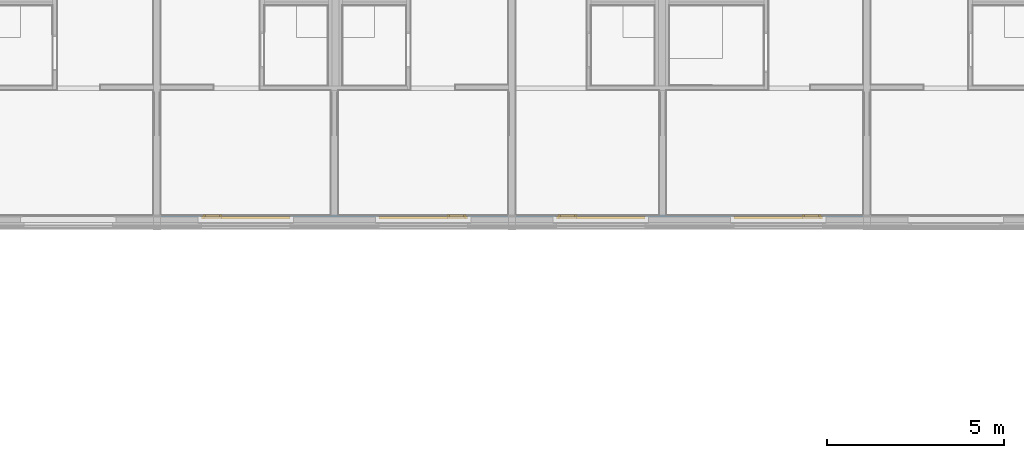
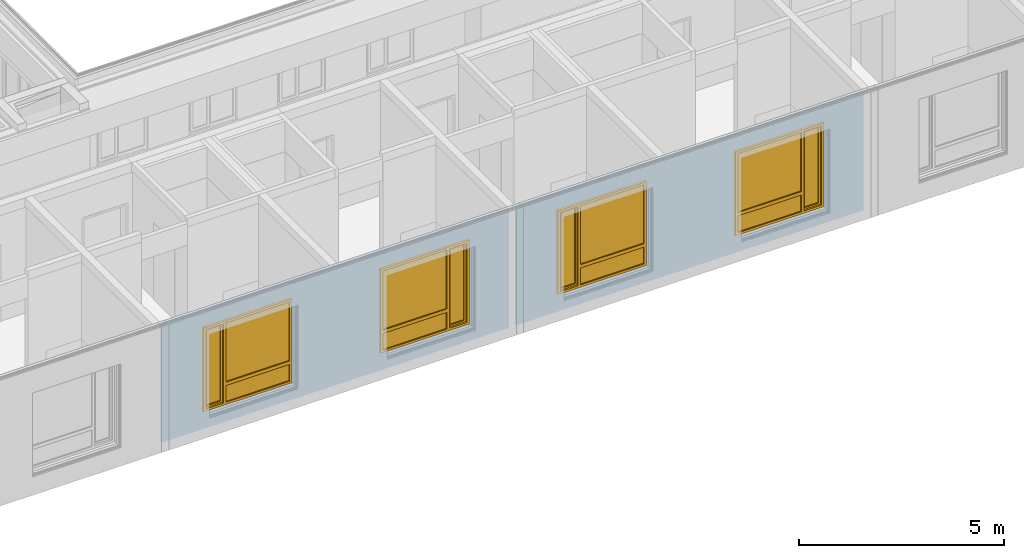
# One storey, part 116 of 222: 4 windows, 4 openings, plus 2 elements that do not belong to this part.
"""IFC4 building model written with IfcOpenShell, lengths in metres."""

import ifcopenshell
import ifcopenshell.guid

model = None  # the IFC model being written
_history = None  # IfcOwnerHistory: only IFC2X3 demands one
_inside = {}  # id of a spatial element -> (the spatial element, [elements in it])
_under = {}  # id of a project, library or spatial element -> (it, [spatial elements below it])
_declared = {}  # id of a project -> (the project, [libraries it declares])
_typed = {}  # id of a type object -> (the type object, [elements of that type])
_made_of = {}  # id of a material, layer set ... -> (it, [elements and type objects made of it])


def new_model(schema):
    """Start an empty IFC model of exactly this schema.

    Asked for "IFC4X3", IfcOpenShell would pick the latest addendum, in which some entities
    have other attributes; the version numbers below select the first issue.
    IFC2X3 requires an IfcOwnerHistory on every rooted entity: one is made here for all.
    """
    global model, _history
    if schema == "IFC4X3":
        model = ifcopenshell.file(schema_version=(4, 3, 0, 0))
    else:
        model = ifcopenshell.file(schema=schema)
    _inside.clear()
    _under.clear()
    _declared.clear()
    _typed.clear()
    _made_of.clear()
    _history = None
    if model.schema == "IFC2X3":
        org = make("IfcOrganization", Name="unknown")
        user = make(
            "IfcPersonAndOrganization",
            ThePerson=make("IfcPerson", FamilyName="unknown"),
            TheOrganization=org,
        )
        app = make(
            "IfcApplication",
            ApplicationDeveloper=org,
            Version="unknown",
            ApplicationFullName="unknown",
            ApplicationIdentifier="unknown",
        )
        _history = make(
            "IfcOwnerHistory",
            OwningUser=user,
            OwningApplication=app,
            ChangeAction="ADDED",
            CreationDate=0,
        )
    return model


def make(cls, **values):
    """One entity of the class cls with the attributes given. An attribute that is None is left unset."""
    return model.create_entity(
        cls, **{name: value for name, value in values.items() if value is not None}
    )


def entity(cls, *values):
    """Any entity or typed value of the class cls, its attributes in the order of the schema. None: left unset."""
    e = model.create_entity(cls)
    for i, value in enumerate(values):
        if value is not None:
            e[i] = value
    return e


def rooted(cls, **values):
    """An entity with a GlobalId (a new one), such as an element, a storey or a relation."""
    return make(cls, GlobalId=ifcopenshell.guid.new(), OwnerHistory=_history, **values)


def si_unit(unit_type, name, prefix=None):
    """IfcSIUnit, for example si_unit("LENGTHUNIT", "METRE", prefix="MILLI")."""
    return make("IfcSIUnit", UnitType=unit_type, Prefix=prefix, Name=name)


def converted_unit(unit_type, name, factor, base, dimensions=None, offset=None):
    """IfcConversionBasedUnit, such as the inch: factor (a typed value) times the base unit."""
    return make(
        "IfcConversionBasedUnit"
        if offset is None
        else "IfcConversionBasedUnitWithOffset",
        ConversionOffset=offset,
        Dimensions=None
        if dimensions is None
        else entity("IfcDimensionalExponents", *dimensions),
        UnitType=unit_type,
        Name=name,
        ConversionFactor=make(
            "IfcMeasureWithUnit", ValueComponent=factor, UnitComponent=base
        ),
    )


def derived_unit(unit_type, elements):
    """IfcDerivedUnit: a product of units, each with its exponent."""
    return make(
        "IfcDerivedUnit",
        Elements=[
            make("IfcDerivedUnitElement", Unit=unit, Exponent=power)
            for unit, power in elements
        ],
        UnitType=unit_type,
    )


def assignment(units):
    """IfcUnitAssignment: the units of a project."""
    return None if units is None else make("IfcUnitAssignment", Units=units)


def point(xyz):
    """IfcCartesianPoint."""
    return None if xyz is None else make("IfcCartesianPoint", Coordinates=xyz)


def direction(xyz):
    """IfcDirection."""
    return None if xyz is None else make("IfcDirection", DirectionRatios=xyz)


def frame(location, z_axis=None, x_axis=None):
    """IfcAxis2Placement3D, a coordinate frame: its origin and axes. An axis left out is left unset."""
    return make(
        "IfcAxis2Placement3D",
        Location=point(location),
        Axis=direction(z_axis),
        RefDirection=direction(x_axis),
    )


def frame_2d(location, x_axis=None):
    """IfcAxis2Placement2D, a coordinate frame in the plane: its origin and x axis."""
    return make(
        "IfcAxis2Placement2D", Location=point(location), RefDirection=direction(x_axis)
    )


def origin():
    """The frame at (0, 0, 0) with its axes left unset."""
    return frame((0.0, 0.0, 0.0))


def origin_with_axes():
    """The frame at (0, 0, 0) with the z axis (0, 0, 1) and the x axis (1, 0, 0) written out."""
    return frame((0.0, 0.0, 0.0), z_axis=(0.0, 0.0, 1.0), x_axis=(1.0, 0.0, 0.0))


def place(relative_to, where):
    """IfcLocalPlacement: puts the frame where relative to a parent placement (None: the world)."""
    return make(
        "IfcLocalPlacement", PlacementRelTo=relative_to, RelativePlacement=where
    )


def context(
    kind, dimensions, precision=None, world=None, true_north=None, identifier=None
):
    """IfcGeometricRepresentationContext, for example the 3D "Model" context."""
    return make(
        "IfcGeometricRepresentationContext",
        ContextIdentifier=identifier,
        ContextType=kind,
        CoordinateSpaceDimension=dimensions,
        Precision=precision,
        WorldCoordinateSystem=world,
        TrueNorth=true_north,
    )


def subcontext(parent, identifier, kind, view, scale=None):
    """IfcGeometricRepresentationSubContext, for example "Body" below "Model"."""
    return make(
        "IfcGeometricRepresentationSubContext",
        ContextIdentifier=identifier,
        ContextType=kind,
        ParentContext=parent,
        TargetScale=scale,
        TargetView=view,
    )


def project(units=None, contexts=None):
    """IfcProject with its units and contexts."""
    return rooted(
        "IfcProject",
        Name="project",
        RepresentationContexts=contexts,
        UnitsInContext=assignment(units),
    )


def spatial(cls, under=None, at=None, **own):
    """A site, building, storey or space (cls), placed at a placement, below another one or the project."""
    s = rooted(cls, ObjectPlacement=at, **own)
    if under is not None:
        _under.setdefault(under.id(), (under, []))[1].append(s)
    return s


def polyline(points):
    """IfcPolyline through the points."""
    return make("IfcPolyline", Points=[point(p) for p in points])


def profile(cls, at=None, kind="AREA", **sizes):
    """A parametric profile (cls). Its sizes go by their IFC names, for example OverallWidth=200.0."""
    return make(cls, ProfileType=kind, Position=at, **sizes)


def rectangle(**sizes):
    """IfcRectangleProfileDef."""
    return profile("IfcRectangleProfileDef", **sizes)


def outline(outer, holes=None, kind="AREA"):
    """IfcArbitraryClosedProfileDef: a profile drawn as a closed curve; with holes, ...WithVoids."""
    if holes is None:
        return make("IfcArbitraryClosedProfileDef", ProfileType=kind, OuterCurve=outer)
    return make(
        "IfcArbitraryProfileDefWithVoids",
        ProfileType=kind,
        OuterCurve=outer,
        InnerCurves=holes,
    )


def extrude(swept, where, along, depth):
    """IfcExtrudedAreaSolid: the profile swept, set in the frame where, extruded along a direction by depth."""
    return make(
        "IfcExtrudedAreaSolid",
        SweptArea=swept,
        Position=where,
        ExtrudedDirection=direction(along),
        Depth=depth,
    )


def faces_of(points, faces, orient=None, outer=None):
    """IfcFace entities. A face is a list of loops; a loop is a list of indices into points, from 0.

    orient and outer hold one flag for each loop. By default every Orientation is true, the
    first loop of a face is its IfcFaceOuterBound and the others are IfcFaceBound.
    """
    made = []
    for i, loops in enumerate(faces):
        bounds = []
        for j, loop in enumerate(loops):
            is_outer = j == 0 if outer is None else outer[i][j]
            bounds.append(
                make(
                    "IfcFaceOuterBound" if is_outer else "IfcFaceBound",
                    Bound=make("IfcPolyLoop", Polygon=[points[k] for k in loop]),
                    Orientation=True if orient is None else orient[i][j],
                )
            )
        made.append(make("IfcFace", Bounds=bounds))
    return made


def closed_shell(faces, orient=None, outer=None):
    """The faces of one IfcClosedShell. faceted_brep and surface_model build it on their shared points."""
    return ("IfcClosedShell", faces, orient, outer)


def open_shell(faces, orient=None, outer=None):
    """The faces of one IfcOpenShell. surface_model builds it on its shared points."""
    return ("IfcOpenShell", faces, orient, outer)


def surface_model(cls, points, shells):
    """IfcFaceBasedSurfaceModel or IfcShellBasedSurfaceModel (cls): surfaces that need not close."""
    shared = [point(p) for p in points]
    made = [make(c, CfsFaces=faces_of(shared, fs, o, b)) for c, fs, o, b in shells]
    if cls == "IfcFaceBasedSurfaceModel":
        return make(cls, FbsmFaces=made)
    return make(cls, SbsmBoundary=made)


def shape(context_of_items, identifier, shape_type, items):
    """IfcShapeRepresentation: the items that make up one representation, for example the "Body"."""
    return make(
        "IfcShapeRepresentation",
        ContextOfItems=context_of_items,
        RepresentationIdentifier=identifier,
        RepresentationType=shape_type,
        Items=items,
    )


def source(mapping_origin, context_of_items, identifier, shape_type, items):
    """IfcRepresentationMap: a shape defined once, which mapped items show again and again."""
    return make(
        "IfcRepresentationMap",
        MappingOrigin=mapping_origin,
        MappedRepresentation=shape(context_of_items, identifier, shape_type, items),
    )


def transform(
    local_origin,
    x_axis=None,
    y_axis=None,
    z_axis=None,
    scale=None,
    scale2=None,
    scale3=None,
    uniform=True,
):
    """IfcCartesianTransformationOperator3D, or its non-uniform kind. x_axis, y_axis, z_axis: its Axis1, 2, 3."""
    if uniform:
        return make(
            "IfcCartesianTransformationOperator3D",
            Axis1=direction(x_axis),
            Axis2=direction(y_axis),
            LocalOrigin=point(local_origin),
            Scale=scale,
            Axis3=direction(z_axis),
        )
    return make(
        "IfcCartesianTransformationOperator3DnonUniform",
        Axis1=direction(x_axis),
        Axis2=direction(y_axis),
        LocalOrigin=point(local_origin),
        Scale=scale,
        Axis3=direction(z_axis),
        Scale2=scale2,
        Scale3=scale3,
    )


def mapped(mapping_source, mapping_target):
    """IfcMappedItem: shows the shape of a source again, moved by a transform."""
    return make(
        "IfcMappedItem", MappingSource=mapping_source, MappingTarget=mapping_target
    )


def material(Name=None, Category=None):
    """IfcMaterial."""
    return make("IfcMaterial", Name=Name, Category=Category)


def made_of(thing, what):
    """Note that an element or type object is made of a material, layer set ...; save() writes the relation."""
    if what is not None:
        _made_of.setdefault(what.id(), (what, []))[1].append(thing)
    return thing


def element(
    cls,
    number,
    at=None,
    inside=None,
    cuts=None,
    type_object=None,
    material=None,
    context=None,
    identifier="Body",
    shape_type=None,
    held_by="IfcProductDefinitionShape",
    body=None,
    shapes=None,
    **own,
):
    """One element of the class cls, such as IfcWall. Its Tag is "e" and its number.

    at: its placement. inside: the storey or other place that contains it. cuts: it is an
    opening in that element (IfcRelVoidsElement). A single representation is given by context,
    identifier, shape_type and body (its items); several are given by shapes. held_by: the class
    of the entity that holds the representations. save() writes the other relations.
    """
    e = rooted(cls, Tag="e%d" % number, ObjectPlacement=at, **own)
    if body is not None:
        shapes = [shape(context, identifier, shape_type, body)]
    if shapes is not None:
        e.Representation = make(held_by, Representations=shapes)
    if inside is not None:
        _inside.setdefault(inside.id(), (inside, []))[1].append(e)
    if cuts is not None:
        rooted(
            "IfcRelVoidsElement", RelatingBuildingElement=cuts, RelatedOpeningElement=e
        )
    if type_object is not None:
        _typed.setdefault(type_object.id(), (type_object, []))[1].append(e)
    return made_of(e, material)


def fill(opening, filler):
    """IfcRelFillsElement: the door or window that sits in an opening."""
    return rooted(
        "IfcRelFillsElement",
        RelatingOpeningElement=opening,
        RelatedBuildingElement=filler,
    )


def aggregate(whole, parts):
    """IfcRelAggregates: a whole, such as a stair, and the parts it consists of."""
    return rooted("IfcRelAggregates", RelatingObject=whole, RelatedObjects=parts)


def save(model, path):
    """Write the relations noted so far, then the file.

    IfcRelAggregates (storeys below a building ...), IfcRelContainedInSpatialStructure (elements
    in a storey), IfcRelDefinesByType, IfcRelAssociatesMaterial and IfcRelDeclares: one each for
    every whole, place, type object, material and project.
    """
    for whole, parts in _under.values():
        aggregate(whole, parts)
    for where, things in _inside.values():
        rooted(
            "IfcRelContainedInSpatialStructure",
            RelatedElements=things,
            RelatingStructure=where,
        )
    for kind, things in _typed.values():
        rooted("IfcRelDefinesByType", RelatedObjects=things, RelatingType=kind)
    for what, things in _made_of.values():
        rooted("IfcRelAssociatesMaterial", RelatedObjects=things, RelatingMaterial=what)
    for by, libraries in _declared.values():
        rooted("IfcRelDeclares", RelatingContext=by, RelatedDefinitions=libraries)
    model.write(path)


model = new_model("IFC4")

# Units and contexts
model_context = context("Model", 3, precision=1e-05, world=origin())
body_context = subcontext(model_context, "Body", "Model", "MODEL_VIEW")
ifc_project = project(units=[si_unit("LENGTHUNIT", "METRE"), si_unit("AREAUNIT", "SQUARE_METRE"), si_unit("VOLUMEUNIT", "CUBIC_METRE"), si_unit("MASSUNIT", "GRAM", prefix="KILO"), converted_unit("PLANEANGLEUNIT", "DEGREE", entity("IfcPlaneAngleMeasure", 0.0174532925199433), si_unit("PLANEANGLEUNIT", "RADIAN"), dimensions=[0, 0, 0, 0, 0, 0, 0]), derived_unit("THERMALTRANSMITTANCEUNIT", [(si_unit("POWERUNIT", "WATT"), 1), (si_unit("THERMODYNAMICTEMPERATUREUNIT", "KELVIN"), -1), (si_unit("LENGTHUNIT", "METRE"), -2)]), derived_unit("VOLUMETRICFLOWRATEUNIT", [(si_unit("LENGTHUNIT", "METRE"), 3), (converted_unit("TIMEUNIT", "hour", entity("IfcTimeMeasure", 3600.0), si_unit("TIMEUNIT", "SECOND"), dimensions=[0, 0, 1, 0, 0, 0, 0]), -1), (si_unit("LENGTHUNIT", "METRE"), -1)])], contexts=[model_context])

# Site, building, storey
site_placement = place(None, origin())
site = spatial("IfcSite", under=ifc_project, at=site_placement, Name="Psychiatrie Neubau Wunstorf", CompositionType="ELEMENT")
building_placement = place(site_placement, origin())
building = spatial("IfcBuilding", under=site, at=building_placement, Name="Neubau H2 Stationsgebäude", CompositionType="ELEMENT")
storey_placement = place(building_placement, frame((0.0, 0.0, 3.6)))
storey = spatial("IfcBuildingStorey", under=building, at=storey_placement, Name="H2 Ebene +1", CompositionType="ELEMENT", Elevation=3.6)

# Wall, openings, windows
ifc_material_1 = material(Name="WA-LB")
wall_1_placement = place(storey_placement, frame((95.9, -1.16399999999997, 0.0), z_axis=(0.0, 0.0, 1.0), x_axis=(-1.0, 7.42444654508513e-16, 0.0)))
wall_1 = element("IfcWall", 1, at=wall_1_placement, inside=storey, material=ifc_material_1, context=body_context, shape_type="SweptSolid", body=[
    extrude(rectangle(XDim=9.8, YDim=0.036, at=frame_2d((4.9, 0.018), x_axis=(1.0, 0.0))), origin_with_axes(), (0.0, 0.0, 1.0), 3.55),
])
opening_1_placement = place(wall_1_placement, frame((1.14999995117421, 0.0, 0.55), z_axis=(0.0, 1.0, 0.0), x_axis=(0.0, 0.0, 1.0)))
opening_1 = element("IfcOpeningElement", 2, at=opening_1_placement, cuts=wall_1, Name="Fensteröffnung", ObjectType="Opening", context=body_context, shape_type="SweptSolid", body=[
    extrude(outline(polyline([(2.5, 2.5), (2.5, 0.0), (0.0, 0.0), (0.0, 2.5), (2.5, 2.5)])), origin_with_axes(), (0.0, 0.0, 1.0), 0.036),
])
opening_2_placement = place(wall_1_placement, frame((6.14999995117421, 0.0, 0.55), z_axis=(0.0, 1.0, 0.0), x_axis=(0.0, 0.0, 1.0)))
opening_2 = element("IfcOpeningElement", 3, at=opening_2_placement, cuts=wall_1, Name="Fensteröffnung", ObjectType="Opening", context=body_context, shape_type="SweptSolid", body=[
    extrude(outline(polyline([(2.5, 2.5), (2.5, 0.0), (0.0, 0.0), (0.0, 2.5), (2.5, 2.5)])), origin_with_axes(), (0.0, 0.0, 1.0), 0.036),
])
shared_shape_1 = source(origin_with_axes(), body_context, "Body", "SurfaceModel", [
    surface_model("IfcShellBasedSurfaceModel", [(0.0, 0.0, 2.5), (0.07, 0.0, 2.5), (0.07, 0.0, 0.0), (0.0, 0.0, 0.0), (0.0, 0.0699999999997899, 0.0), (0.07, 0.0699999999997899, 0.0), (0.07, 0.0699999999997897, 2.5), (0.0, 0.0699999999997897, 2.5)], [closed_shell([[[0, 1, 2, 3]], [[4, 5, 6, 7]], [[3, 4, 7, 0]], [[2, 5, 4, 3]], [[1, 6, 5, 2]], [[0, 7, 6, 1]]], orient=[[False], [False], [False], [False], [False], [False]])]),
    surface_model("IfcShellBasedSurfaceModel", [(2.43, 0.0, 2.5), (2.5, 0.0, 2.5), (2.5, 0.0, 0.0), (2.43, 0.0, 0.0), (2.43, 0.0699999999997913, 0.0), (2.5, 0.069999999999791, 0.0), (2.5, 0.0699999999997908, 2.5), (2.43, 0.0699999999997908, 2.5)], [closed_shell([[[0, 1, 2, 3]], [[4, 5, 6, 7]], [[3, 4, 7, 0]], [[2, 5, 4, 3]], [[1, 6, 5, 2]], [[0, 7, 6, 1]]], orient=[[False], [False], [False], [False], [False], [False]])]),
    surface_model("IfcShellBasedSurfaceModel", [(0.07, 0.0, 0.07), (2.43, 0.0, 0.07), (2.43, 0.0, 0.0), (0.07, 0.0, 0.0), (0.07, 0.0699999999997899, 0.0), (2.43, 0.0699999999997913, 0.0), (2.43, 0.069999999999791, 0.07), (0.07, 0.0699999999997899, 0.07)], [closed_shell([[[0, 1, 2, 3]], [[4, 5, 6, 7]], [[3, 4, 7, 0]], [[2, 5, 4, 3]], [[1, 6, 5, 2]], [[0, 7, 6, 1]]], orient=[[False], [False], [False], [False], [False], [False]])]),
    surface_model("IfcShellBasedSurfaceModel", [(0.07, 0.0, 2.5), (2.43, 0.0, 2.5), (2.43, 0.0, 2.43), (0.07, 0.0, 2.43), (0.07, 0.0699999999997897, 2.43), (2.43, 0.0699999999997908, 2.43), (2.43, 0.0699999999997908, 2.5), (0.07, 0.0699999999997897, 2.5)], [closed_shell([[[0, 1, 2, 3]], [[4, 5, 6, 7]], [[3, 4, 7, 0]], [[2, 5, 4, 3]], [[1, 6, 5, 2]], [[0, 7, 6, 1]]], orient=[[False], [False], [False], [False], [False], [False]])]),
    surface_model("IfcShellBasedSurfaceModel", [(0.565714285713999, 0.0, 2.43), (0.635714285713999, 0.0, 2.43), (0.635714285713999, 0.0, 0.07), (0.565714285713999, 0.0, 0.07), (0.565714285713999, 0.0699999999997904, 0.07), (0.635714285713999, 0.0699999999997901, 0.07), (0.635714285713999, 0.0699999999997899, 2.43), (0.565714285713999, 0.0699999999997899, 2.43)], [closed_shell([[[0, 1, 2, 3]], [[4, 5, 6, 7]], [[3, 4, 7, 0]], [[2, 5, 4, 3]], [[1, 6, 5, 2]], [[0, 7, 6, 1]]], orient=[[False], [False], [False], [False], [False], [False]])]),
    surface_model("IfcShellBasedSurfaceModel", [(0.05, -0.050000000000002, 2.45), (0.12, -0.050000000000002, 2.45), (0.12, -0.0500000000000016, 0.05), (0.05, -0.0500000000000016, 0.05), (0.05, 0.0199999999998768, 0.05), (0.12, 0.0199999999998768, 0.05), (0.12, 0.0199999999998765, 2.45), (0.05, 0.0199999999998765, 2.45)], [closed_shell([[[0, 1, 2, 3]], [[4, 5, 6, 7]], [[3, 4, 7, 0]], [[2, 5, 4, 3]], [[1, 6, 5, 2]], [[0, 7, 6, 1]]], orient=[[False], [False], [False], [False], [False], [False]])]),
    surface_model("IfcShellBasedSurfaceModel", [(0.515714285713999, -0.0500000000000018, 2.45), (0.585714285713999, -0.0500000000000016, 2.45), (0.585714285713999, -0.0500000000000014, 0.05), (0.515714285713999, -0.0500000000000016, 0.05), (0.515714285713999, 0.0199999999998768, 0.05), (0.585714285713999, 0.019999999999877, 0.05), (0.585714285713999, 0.0199999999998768, 2.45), (0.515714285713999, 0.0199999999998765, 2.45)], [closed_shell([[[0, 1, 2, 3]], [[4, 5, 6, 7]], [[3, 4, 7, 0]], [[2, 5, 4, 3]], [[1, 6, 5, 2]], [[0, 7, 6, 1]]], orient=[[False], [False], [False], [False], [False], [False]])]),
    surface_model("IfcShellBasedSurfaceModel", [(0.12, -0.0500000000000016, 0.12), (0.515714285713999, -0.0500000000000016, 0.12), (0.515714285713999, -0.0500000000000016, 0.05), (0.12, -0.0500000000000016, 0.05), (0.12, 0.0199999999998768, 0.05), (0.515714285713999, 0.0199999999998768, 0.05), (0.515714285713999, 0.0199999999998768, 0.12), (0.12, 0.0199999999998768, 0.12)], [closed_shell([[[0, 1, 2, 3]], [[4, 5, 6, 7]], [[3, 4, 7, 0]], [[2, 5, 4, 3]], [[1, 6, 5, 2]], [[0, 7, 6, 1]]], orient=[[False], [False], [False], [False], [False], [False]])]),
    surface_model("IfcShellBasedSurfaceModel", [(0.12, -0.050000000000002, 2.45), (0.515714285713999, -0.0500000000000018, 2.45), (0.515714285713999, -0.0500000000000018, 2.38), (0.12, -0.050000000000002, 2.38), (0.12, 0.0199999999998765, 2.38), (0.515714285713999, 0.0199999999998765, 2.38), (0.515714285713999, 0.0199999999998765, 2.45), (0.12, 0.0199999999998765, 2.45)], [closed_shell([[[0, 1, 2, 3]], [[4, 5, 6, 7]], [[3, 4, 7, 0]], [[2, 5, 4, 3]], [[1, 6, 5, 2]], [[0, 7, 6, 1]]], orient=[[False], [False], [False], [False], [False], [False]])]),
    surface_model("IfcShellBasedSurfaceModel", [(0.635714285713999, 0.0, 0.67), (2.43, 0.0, 0.67), (2.43, 0.0, 0.57), (0.635714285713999, 0.0, 0.57), (0.635714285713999, 0.0699999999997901, 0.57), (2.43, 0.069999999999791, 0.57), (2.43, 0.069999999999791, 0.67), (0.635714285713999, 0.0699999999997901, 0.67)], [closed_shell([[[0, 1, 2, 3]], [[4, 5, 6, 7]], [[3, 4, 7, 0]], [[2, 5, 4, 3]], [[1, 6, 5, 2]], [[0, 7, 6, 1]]], orient=[[False], [False], [False], [False], [False], [False]])]),
    surface_model("IfcShellBasedSurfaceModel", [(0.12, -0.0150000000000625, 0.12), (0.12, -0.0150000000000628, 2.38), (0.515714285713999, -0.0150000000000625, 2.38), (0.515714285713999, -0.0150000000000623, 0.12)], [open_shell([[[0, 1, 2, 3]]], orient=[[False]])]),
    surface_model("IfcShellBasedSurfaceModel", [(0.635714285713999, 0.0349999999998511, 0.07), (0.635714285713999, 0.0349999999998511, 0.57), (2.43, 0.034999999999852, 0.57), (2.43, 0.034999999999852, 0.07)], [open_shell([[[0, 1, 2, 3]]], orient=[[False]])]),
    surface_model("IfcShellBasedSurfaceModel", [(0.635714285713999, 0.0349999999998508, 0.67), (0.635714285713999, 0.0349999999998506, 2.43), (2.43, 0.0349999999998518, 2.43), (2.43, 0.034999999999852, 0.67)], [open_shell([[[0, 1, 2, 3]]], orient=[[False]])]),
])
window_1_placement = place(opening_1_placement, frame((0.0, 0.0, 0.03), z_axis=(1.0, 0.0, 0.0), x_axis=(0.0, 1.0, 1.48488930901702e-17)))
window_1 = element("IfcWindow", 4, at=window_1_placement, inside=storey, Name="Fenster", OverallHeight=2.5, OverallWidth=2.5, PartitioningType="USERDEFINED", PredefinedType="WINDOW", context=body_context, shape_type="MappedRepresentation", body=[
    mapped(shared_shape_1, transform((0.0, 0.0, 0.0), x_axis=(1.0, 0.0, 0.0), y_axis=(0.0, 1.0, 0.0), z_axis=(0.0, 0.0, 1.0), scale=1.0)),
])
fill(opening_1, window_1)
shared_shape_2 = source(origin_with_axes(), body_context, "Body", "SurfaceModel", [
    surface_model("IfcShellBasedSurfaceModel", [(2.5, 0.0, 2.5), (2.5, 0.0, 0.0), (2.43, 0.0, 0.0), (2.43, 0.0, 2.5), (2.5, 0.0699999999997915, 0.0), (2.5, 0.0699999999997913, 2.5), (2.43, 0.0699999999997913, 2.5), (2.43, 0.0699999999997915, 0.0)], [closed_shell([[[0, 1, 2, 3]], [[4, 5, 6, 7]], [[1, 0, 5, 4]], [[2, 1, 4, 7]], [[3, 2, 7, 6]], [[0, 3, 6, 5]]], orient=[[False], [False], [False], [False], [False], [False]])]),
    surface_model("IfcShellBasedSurfaceModel", [(0.07, 0.0, 2.5), (0.07, 0.0, 0.0), (0.0, 0.0, 0.0), (0.0, 0.0, 2.5), (0.07, 0.0699999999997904, 0.0), (0.07, 0.0699999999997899, 2.5), (0.0, 0.0699999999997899, 2.5), (0.0, 0.0699999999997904, 0.0)], [closed_shell([[[0, 1, 2, 3]], [[4, 5, 6, 7]], [[1, 0, 5, 4]], [[2, 1, 4, 7]], [[3, 2, 7, 6]], [[0, 3, 6, 5]]], orient=[[False], [False], [False], [False], [False], [False]])]),
    surface_model("IfcShellBasedSurfaceModel", [(2.43, 0.0, 0.07), (2.43, 0.0, 0.0), (0.07, 0.0, 0.0), (0.07, 0.0, 0.07), (2.43, 0.0699999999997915, 0.0), (2.43, 0.0699999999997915, 0.07), (0.07, 0.0699999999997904, 0.07), (0.07, 0.0699999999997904, 0.0)], [closed_shell([[[0, 1, 2, 3]], [[4, 5, 6, 7]], [[1, 0, 5, 4]], [[2, 1, 4, 7]], [[3, 2, 7, 6]], [[0, 3, 6, 5]]], orient=[[False], [False], [False], [False], [False], [False]])]),
    surface_model("IfcShellBasedSurfaceModel", [(2.43, 0.0, 2.5), (2.43, 0.0, 2.43), (0.07, 0.0, 2.43), (0.07, 0.0, 2.5), (2.43, 0.0699999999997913, 2.43), (2.43, 0.0699999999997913, 2.5), (0.07, 0.0699999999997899, 2.5), (0.07, 0.0699999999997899, 2.43)], [closed_shell([[[0, 1, 2, 3]], [[4, 5, 6, 7]], [[1, 0, 5, 4]], [[2, 1, 4, 7]], [[3, 2, 7, 6]], [[0, 3, 6, 5]]], orient=[[False], [False], [False], [False], [False], [False]])]),
    surface_model("IfcShellBasedSurfaceModel", [(1.934285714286, 0.0, 2.43), (1.934285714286, 0.0, 0.07), (1.864285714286, 0.0, 0.07), (1.864285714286, 0.0, 2.43), (1.934285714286, 0.0699999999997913, 0.07), (1.934285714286, 0.0699999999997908, 2.43), (1.864285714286, 0.069999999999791, 2.43), (1.864285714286, 0.0699999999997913, 0.07)], [closed_shell([[[0, 1, 2, 3]], [[4, 5, 6, 7]], [[1, 0, 5, 4]], [[2, 1, 4, 7]], [[3, 2, 7, 6]], [[0, 3, 6, 5]]], orient=[[False], [False], [False], [False], [False], [False]])]),
    surface_model("IfcShellBasedSurfaceModel", [(2.45, -0.0500000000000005, 2.45), (2.45, -0.05, 0.05), (2.38, -0.0500000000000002, 0.05), (2.38, -0.0500000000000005, 2.45), (2.45, 0.0199999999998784, 0.05), (2.45, 0.0199999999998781, 2.45), (2.38, 0.0199999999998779, 2.45), (2.38, 0.0199999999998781, 0.05)], [closed_shell([[[0, 1, 2, 3]], [[4, 5, 6, 7]], [[1, 0, 5, 4]], [[2, 1, 4, 7]], [[3, 2, 7, 6]], [[0, 3, 6, 5]]], orient=[[False], [False], [False], [False], [False], [False]])]),
    surface_model("IfcShellBasedSurfaceModel", [(1.984285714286, -0.0500000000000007, 2.45), (1.984285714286, -0.0500000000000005, 0.05), (1.914285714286, -0.0500000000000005, 0.05), (1.914285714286, -0.0500000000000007, 2.45), (1.984285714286, 0.0199999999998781, 0.05), (1.984285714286, 0.0199999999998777, 2.45), (1.914285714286, 0.0199999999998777, 2.45), (1.914285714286, 0.0199999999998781, 0.05)], [closed_shell([[[0, 1, 2, 3]], [[4, 5, 6, 7]], [[1, 0, 5, 4]], [[2, 1, 4, 7]], [[3, 2, 7, 6]], [[0, 3, 6, 5]]], orient=[[False], [False], [False], [False], [False], [False]])]),
    surface_model("IfcShellBasedSurfaceModel", [(2.38, -0.0500000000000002, 0.12), (2.38, -0.0500000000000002, 0.05), (1.984285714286, -0.0500000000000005, 0.05), (1.984285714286, -0.0500000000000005, 0.12), (2.38, 0.0199999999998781, 0.05), (2.38, 0.0199999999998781, 0.12), (1.984285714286, 0.0199999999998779, 0.12), (1.984285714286, 0.0199999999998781, 0.05)], [closed_shell([[[0, 1, 2, 3]], [[4, 5, 6, 7]], [[1, 0, 5, 4]], [[2, 1, 4, 7]], [[3, 2, 7, 6]], [[0, 3, 6, 5]]], orient=[[False], [False], [False], [False], [False], [False]])]),
    surface_model("IfcShellBasedSurfaceModel", [(2.38, -0.0500000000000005, 2.45), (2.38, -0.0500000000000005, 2.38), (1.984285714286, -0.0500000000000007, 2.38), (1.984285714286, -0.0500000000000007, 2.45), (2.38, 0.0199999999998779, 2.38), (2.38, 0.0199999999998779, 2.45), (1.984285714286, 0.0199999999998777, 2.45), (1.984285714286, 0.0199999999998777, 2.38)], [closed_shell([[[0, 1, 2, 3]], [[4, 5, 6, 7]], [[1, 0, 5, 4]], [[2, 1, 4, 7]], [[3, 2, 7, 6]], [[0, 3, 6, 5]]], orient=[[False], [False], [False], [False], [False], [False]])]),
    surface_model("IfcShellBasedSurfaceModel", [(1.864285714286, 0.0, 0.67), (1.864285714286, 0.0, 0.57), (0.07, 0.0, 0.57), (0.07, 0.0, 0.67), (1.864285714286, 0.0699999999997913, 0.57), (1.864285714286, 0.069999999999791, 0.67), (0.07, 0.0699999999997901, 0.67), (0.07, 0.0699999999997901, 0.57)], [closed_shell([[[0, 1, 2, 3]], [[4, 5, 6, 7]], [[1, 0, 5, 4]], [[2, 1, 4, 7]], [[3, 2, 7, 6]], [[0, 3, 6, 5]]], orient=[[False], [False], [False], [False], [False], [False]])]),
    surface_model("IfcShellBasedSurfaceModel", [(2.38, -0.0150000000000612, 0.12), (1.984285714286, -0.0150000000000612, 0.12), (1.984285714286, -0.0150000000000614, 2.38), (2.38, -0.0150000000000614, 2.38)], [open_shell([[[0, 1, 2, 3]]], orient=[[False]])]),
    surface_model("IfcShellBasedSurfaceModel", [(1.864285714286, 0.034999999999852, 0.07), (0.07, 0.0349999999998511, 0.07), (0.07, 0.0349999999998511, 0.57), (1.864285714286, 0.034999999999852, 0.57)], [open_shell([[[0, 1, 2, 3]]], orient=[[False]])]),
    surface_model("IfcShellBasedSurfaceModel", [(1.864285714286, 0.034999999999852, 0.67), (0.07, 0.0349999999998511, 0.67), (0.07, 0.0349999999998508, 2.43), (1.864285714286, 0.0349999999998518, 2.43)], [open_shell([[[0, 1, 2, 3]]], orient=[[False]])]),
])
window_2_placement = place(opening_2_placement, frame((0.0, 0.0, 0.03), z_axis=(1.0, 0.0, 0.0), x_axis=(0.0, 1.0, 1.48488930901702e-17)))
window_2 = element("IfcWindow", 5, at=window_2_placement, inside=storey, Name="Fenster", OverallHeight=2.5, OverallWidth=2.5, PartitioningType="USERDEFINED", PredefinedType="WINDOW", context=body_context, shape_type="MappedRepresentation", body=[
    mapped(shared_shape_2, transform((0.0, 0.0, 0.0), x_axis=(1.0, 0.0, 0.0), y_axis=(0.0, 1.0, 0.0), z_axis=(0.0, 0.0, 1.0), scale=1.0)),
])
fill(opening_2, window_2)

ifc_material_2 = material(Name="WA-LB")
wall_2_placement = place(storey_placement, frame((85.9, -1.16399999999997, 0.0), z_axis=(0.0, 0.0, 1.0), x_axis=(-1.0, 7.42444654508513e-16, 0.0)))
wall_2 = element("IfcWall", 6, at=wall_2_placement, inside=storey, material=ifc_material_2, context=body_context, shape_type="SweptSolid", body=[
    extrude(rectangle(XDim=9.8, YDim=0.036, at=frame_2d((4.9, 0.018), x_axis=(1.0, 0.0))), origin_with_axes(), (0.0, 0.0, 1.0), 3.55),
])
opening_3_placement = place(wall_2_placement, frame((1.14999995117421, 0.0, 0.55), z_axis=(0.0, 1.0, 0.0), x_axis=(0.0, 0.0, 1.0)))
opening_3 = element("IfcOpeningElement", 7, at=opening_3_placement, cuts=wall_2, Name="Fensteröffnung", ObjectType="Opening", context=body_context, shape_type="SweptSolid", body=[
    extrude(outline(polyline([(2.5, 2.5), (2.5, 0.0), (0.0, 0.0), (0.0, 2.5), (2.5, 2.5)])), origin_with_axes(), (0.0, 0.0, 1.0), 0.036),
])
opening_4_placement = place(wall_2_placement, frame((6.14999995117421, 0.0, 0.55), z_axis=(0.0, 1.0, 0.0), x_axis=(0.0, 0.0, 1.0)))
opening_4 = element("IfcOpeningElement", 8, at=opening_4_placement, cuts=wall_2, Name="Fensteröffnung", ObjectType="Opening", context=body_context, shape_type="SweptSolid", body=[
    extrude(outline(polyline([(2.5, 2.5), (2.5, 0.0), (0.0, 0.0), (0.0, 2.5), (2.5, 2.5)])), origin_with_axes(), (0.0, 0.0, 1.0), 0.036),
])
shared_shape_3 = source(origin_with_axes(), body_context, "Body", "SurfaceModel", [
    surface_model("IfcShellBasedSurfaceModel", [(0.0, 0.0, 2.5), (0.07, 0.0, 2.5), (0.07, 0.0, 0.0), (0.0, 0.0, 0.0), (0.0, 0.0699999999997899, 0.0), (0.07, 0.0699999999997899, 0.0), (0.07, 0.0699999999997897, 2.5), (0.0, 0.0699999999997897, 2.5)], [closed_shell([[[0, 1, 2, 3]], [[4, 5, 6, 7]], [[3, 4, 7, 0]], [[2, 5, 4, 3]], [[1, 6, 5, 2]], [[0, 7, 6, 1]]], orient=[[False], [False], [False], [False], [False], [False]])]),
    surface_model("IfcShellBasedSurfaceModel", [(2.43, 0.0, 2.5), (2.5, 0.0, 2.5), (2.5, 0.0, 0.0), (2.43, 0.0, 0.0), (2.43, 0.0699999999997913, 0.0), (2.5, 0.069999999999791, 0.0), (2.5, 0.0699999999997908, 2.5), (2.43, 0.0699999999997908, 2.5)], [closed_shell([[[0, 1, 2, 3]], [[4, 5, 6, 7]], [[3, 4, 7, 0]], [[2, 5, 4, 3]], [[1, 6, 5, 2]], [[0, 7, 6, 1]]], orient=[[False], [False], [False], [False], [False], [False]])]),
    surface_model("IfcShellBasedSurfaceModel", [(0.07, 0.0, 0.07), (2.43, 0.0, 0.07), (2.43, 0.0, 0.0), (0.07, 0.0, 0.0), (0.07, 0.0699999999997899, 0.0), (2.43, 0.0699999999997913, 0.0), (2.43, 0.0699999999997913, 0.07), (0.07, 0.0699999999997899, 0.07)], [closed_shell([[[0, 1, 2, 3]], [[4, 5, 6, 7]], [[3, 4, 7, 0]], [[2, 5, 4, 3]], [[1, 6, 5, 2]], [[0, 7, 6, 1]]], orient=[[False], [False], [False], [False], [False], [False]])]),
    surface_model("IfcShellBasedSurfaceModel", [(0.07, 0.0, 2.5), (2.43, 0.0, 2.5), (2.43, 0.0, 2.43), (0.07, 0.0, 2.43), (0.07, 0.0699999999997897, 2.43), (2.43, 0.0699999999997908, 2.43), (2.43, 0.0699999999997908, 2.5), (0.07, 0.0699999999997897, 2.5)], [closed_shell([[[0, 1, 2, 3]], [[4, 5, 6, 7]], [[3, 4, 7, 0]], [[2, 5, 4, 3]], [[1, 6, 5, 2]], [[0, 7, 6, 1]]], orient=[[False], [False], [False], [False], [False], [False]])]),
    surface_model("IfcShellBasedSurfaceModel", [(0.565714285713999, 0.0, 2.43), (0.635714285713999, 0.0, 2.43), (0.635714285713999, 0.0, 0.07), (0.565714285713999, 0.0, 0.07), (0.565714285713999, 0.0699999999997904, 0.07), (0.635714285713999, 0.0699999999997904, 0.07), (0.635714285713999, 0.0699999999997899, 2.43), (0.565714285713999, 0.0699999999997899, 2.43)], [closed_shell([[[0, 1, 2, 3]], [[4, 5, 6, 7]], [[3, 4, 7, 0]], [[2, 5, 4, 3]], [[1, 6, 5, 2]], [[0, 7, 6, 1]]], orient=[[False], [False], [False], [False], [False], [False]])]),
    surface_model("IfcShellBasedSurfaceModel", [(0.05, -0.0500000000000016, 2.45), (0.12, -0.0500000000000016, 2.45), (0.12, -0.0500000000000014, 0.05), (0.05, -0.0500000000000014, 0.05), (0.05, 0.019999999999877, 0.05), (0.12, 0.019999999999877, 0.05), (0.12, 0.0199999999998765, 2.45), (0.05, 0.0199999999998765, 2.45)], [closed_shell([[[0, 1, 2, 3]], [[4, 5, 6, 7]], [[3, 4, 7, 0]], [[2, 5, 4, 3]], [[1, 6, 5, 2]], [[0, 7, 6, 1]]], orient=[[False], [False], [False], [False], [False], [False]])]),
    surface_model("IfcShellBasedSurfaceModel", [(0.515714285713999, -0.0500000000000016, 2.45), (0.585714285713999, -0.0500000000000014, 2.45), (0.585714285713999, -0.0500000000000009, 0.05), (0.515714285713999, -0.0500000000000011, 0.05), (0.515714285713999, 0.019999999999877, 0.05), (0.585714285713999, 0.0199999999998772, 0.05), (0.585714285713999, 0.019999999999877, 2.45), (0.515714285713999, 0.0199999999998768, 2.45)], [closed_shell([[[0, 1, 2, 3]], [[4, 5, 6, 7]], [[3, 4, 7, 0]], [[2, 5, 4, 3]], [[1, 6, 5, 2]], [[0, 7, 6, 1]]], orient=[[False], [False], [False], [False], [False], [False]])]),
    surface_model("IfcShellBasedSurfaceModel", [(0.12, -0.0500000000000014, 0.12), (0.515714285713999, -0.0500000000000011, 0.12), (0.515714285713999, -0.0500000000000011, 0.05), (0.12, -0.0500000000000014, 0.05), (0.12, 0.019999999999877, 0.05), (0.515714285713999, 0.019999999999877, 0.05), (0.515714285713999, 0.019999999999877, 0.12), (0.12, 0.019999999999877, 0.12)], [closed_shell([[[0, 1, 2, 3]], [[4, 5, 6, 7]], [[3, 4, 7, 0]], [[2, 5, 4, 3]], [[1, 6, 5, 2]], [[0, 7, 6, 1]]], orient=[[False], [False], [False], [False], [False], [False]])]),
    surface_model("IfcShellBasedSurfaceModel", [(0.12, -0.0500000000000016, 2.45), (0.515714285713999, -0.0500000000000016, 2.45), (0.515714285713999, -0.0500000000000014, 2.38), (0.12, -0.0500000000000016, 2.38), (0.12, 0.0199999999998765, 2.38), (0.515714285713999, 0.0199999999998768, 2.38), (0.515714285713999, 0.0199999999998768, 2.45), (0.12, 0.0199999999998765, 2.45)], [closed_shell([[[0, 1, 2, 3]], [[4, 5, 6, 7]], [[3, 4, 7, 0]], [[2, 5, 4, 3]], [[1, 6, 5, 2]], [[0, 7, 6, 1]]], orient=[[False], [False], [False], [False], [False], [False]])]),
    surface_model("IfcShellBasedSurfaceModel", [(0.635714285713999, 0.0, 0.67), (2.43, 0.0, 0.67), (2.43, 0.0, 0.57), (0.635714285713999, 0.0, 0.57), (0.635714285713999, 0.0699999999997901, 0.57), (2.43, 0.069999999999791, 0.57), (2.43, 0.069999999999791, 0.67), (0.635714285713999, 0.0699999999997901, 0.67)], [closed_shell([[[0, 1, 2, 3]], [[4, 5, 6, 7]], [[3, 4, 7, 0]], [[2, 5, 4, 3]], [[1, 6, 5, 2]], [[0, 7, 6, 1]]], orient=[[False], [False], [False], [False], [False], [False]])]),
    surface_model("IfcShellBasedSurfaceModel", [(0.12, -0.0150000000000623, 0.12), (0.12, -0.0150000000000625, 2.38), (0.515714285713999, -0.0150000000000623, 2.38), (0.515714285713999, -0.0150000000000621, 0.12)], [open_shell([[[0, 1, 2, 3]]], orient=[[False]])]),
    surface_model("IfcShellBasedSurfaceModel", [(0.635714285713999, 0.0349999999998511, 0.07), (0.635714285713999, 0.0349999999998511, 0.57), (2.43, 0.034999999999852, 0.57), (2.43, 0.034999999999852, 0.07)], [open_shell([[[0, 1, 2, 3]]], orient=[[False]])]),
    surface_model("IfcShellBasedSurfaceModel", [(0.635714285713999, 0.0349999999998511, 0.67), (0.635714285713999, 0.0349999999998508, 2.43), (2.43, 0.0349999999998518, 2.43), (2.43, 0.034999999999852, 0.67)], [open_shell([[[0, 1, 2, 3]]], orient=[[False]])]),
])
window_3_placement = place(opening_3_placement, frame((0.0, 0.0, 0.03), z_axis=(1.0, 0.0, 0.0), x_axis=(0.0, 1.0, 1.48488930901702e-17)))
window_3 = element("IfcWindow", 9, at=window_3_placement, inside=storey, Name="Fenster", OverallHeight=2.5, OverallWidth=2.5, PartitioningType="USERDEFINED", PredefinedType="WINDOW", context=body_context, shape_type="MappedRepresentation", body=[
    mapped(shared_shape_3, transform((0.0, 0.0, 0.0), x_axis=(1.0, 0.0, 0.0), y_axis=(0.0, 1.0, 0.0), z_axis=(0.0, 0.0, 1.0), scale=1.0)),
])
fill(opening_3, window_3)
shared_shape_4 = source(origin_with_axes(), body_context, "Body", "SurfaceModel", [
    surface_model("IfcShellBasedSurfaceModel", [(2.5, 0.0, 2.5), (2.5, 0.0, 0.0), (2.43, 0.0, 0.0), (2.43, 0.0, 2.5), (2.5, 0.0699999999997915, 0.0), (2.5, 0.0699999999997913, 2.5), (2.43, 0.0699999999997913, 2.5), (2.43, 0.0699999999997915, 0.0)], [closed_shell([[[0, 1, 2, 3]], [[4, 5, 6, 7]], [[1, 0, 5, 4]], [[2, 1, 4, 7]], [[3, 2, 7, 6]], [[0, 3, 6, 5]]], orient=[[False], [False], [False], [False], [False], [False]])]),
    surface_model("IfcShellBasedSurfaceModel", [(0.07, 0.0, 2.5), (0.07, 0.0, 0.0), (0.0, 0.0, 0.0), (0.0, 0.0, 2.5), (0.07, 0.0699999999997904, 0.0), (0.07, 0.0699999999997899, 2.5), (0.0, 0.0699999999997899, 2.5), (0.0, 0.0699999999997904, 0.0)], [closed_shell([[[0, 1, 2, 3]], [[4, 5, 6, 7]], [[1, 0, 5, 4]], [[2, 1, 4, 7]], [[3, 2, 7, 6]], [[0, 3, 6, 5]]], orient=[[False], [False], [False], [False], [False], [False]])]),
    surface_model("IfcShellBasedSurfaceModel", [(2.43, 0.0, 0.07), (2.43, 0.0, 0.0), (0.07, 0.0, 0.0), (0.07, 0.0, 0.07), (2.43, 0.0699999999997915, 0.0), (2.43, 0.0699999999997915, 0.07), (0.07, 0.0699999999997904, 0.07), (0.07, 0.0699999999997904, 0.0)], [closed_shell([[[0, 1, 2, 3]], [[4, 5, 6, 7]], [[1, 0, 5, 4]], [[2, 1, 4, 7]], [[3, 2, 7, 6]], [[0, 3, 6, 5]]], orient=[[False], [False], [False], [False], [False], [False]])]),
    surface_model("IfcShellBasedSurfaceModel", [(2.43, 0.0, 2.5), (2.43, 0.0, 2.43), (0.07, 0.0, 2.43), (0.07, 0.0, 2.5), (2.43, 0.0699999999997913, 2.43), (2.43, 0.0699999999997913, 2.5), (0.07, 0.0699999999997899, 2.5), (0.07, 0.0699999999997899, 2.43)], [closed_shell([[[0, 1, 2, 3]], [[4, 5, 6, 7]], [[1, 0, 5, 4]], [[2, 1, 4, 7]], [[3, 2, 7, 6]], [[0, 3, 6, 5]]], orient=[[False], [False], [False], [False], [False], [False]])]),
    surface_model("IfcShellBasedSurfaceModel", [(1.934285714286, 0.0, 2.43), (1.934285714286, 0.0, 0.07), (1.864285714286, 0.0, 0.07), (1.864285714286, 0.0, 2.43), (1.934285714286, 0.0699999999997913, 0.07), (1.934285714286, 0.0699999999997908, 2.43), (1.864285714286, 0.069999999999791, 2.43), (1.864285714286, 0.0699999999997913, 0.07)], [closed_shell([[[0, 1, 2, 3]], [[4, 5, 6, 7]], [[1, 0, 5, 4]], [[2, 1, 4, 7]], [[3, 2, 7, 6]], [[0, 3, 6, 5]]], orient=[[False], [False], [False], [False], [False], [False]])]),
    surface_model("IfcShellBasedSurfaceModel", [(2.45, -0.0500000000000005, 2.45), (2.45, -0.05, 0.05), (2.38, -0.0500000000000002, 0.05), (2.38, -0.0500000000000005, 2.45), (2.45, 0.0199999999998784, 0.05), (2.45, 0.0199999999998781, 2.45), (2.38, 0.0199999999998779, 2.45), (2.38, 0.0199999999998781, 0.05)], [closed_shell([[[0, 1, 2, 3]], [[4, 5, 6, 7]], [[1, 0, 5, 4]], [[2, 1, 4, 7]], [[3, 2, 7, 6]], [[0, 3, 6, 5]]], orient=[[False], [False], [False], [False], [False], [False]])]),
    surface_model("IfcShellBasedSurfaceModel", [(1.984285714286, -0.0500000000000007, 2.45), (1.984285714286, -0.0500000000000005, 0.05), (1.914285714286, -0.0500000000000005, 0.05), (1.914285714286, -0.0500000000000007, 2.45), (1.984285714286, 0.0199999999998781, 0.05), (1.984285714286, 0.0199999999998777, 2.45), (1.914285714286, 0.0199999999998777, 2.45), (1.914285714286, 0.0199999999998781, 0.05)], [closed_shell([[[0, 1, 2, 3]], [[4, 5, 6, 7]], [[1, 0, 5, 4]], [[2, 1, 4, 7]], [[3, 2, 7, 6]], [[0, 3, 6, 5]]], orient=[[False], [False], [False], [False], [False], [False]])]),
    surface_model("IfcShellBasedSurfaceModel", [(2.38, -0.0500000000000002, 0.12), (2.38, -0.0500000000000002, 0.05), (1.984285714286, -0.0500000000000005, 0.05), (1.984285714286, -0.0500000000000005, 0.12), (2.38, 0.0199999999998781, 0.05), (2.38, 0.0199999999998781, 0.12), (1.984285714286, 0.0199999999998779, 0.12), (1.984285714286, 0.0199999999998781, 0.05)], [closed_shell([[[0, 1, 2, 3]], [[4, 5, 6, 7]], [[1, 0, 5, 4]], [[2, 1, 4, 7]], [[3, 2, 7, 6]], [[0, 3, 6, 5]]], orient=[[False], [False], [False], [False], [False], [False]])]),
    surface_model("IfcShellBasedSurfaceModel", [(2.38, -0.0500000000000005, 2.45), (2.38, -0.0500000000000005, 2.38), (1.984285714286, -0.0500000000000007, 2.38), (1.984285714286, -0.0500000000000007, 2.45), (2.38, 0.0199999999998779, 2.38), (2.38, 0.0199999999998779, 2.45), (1.984285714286, 0.0199999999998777, 2.45), (1.984285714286, 0.0199999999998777, 2.38)], [closed_shell([[[0, 1, 2, 3]], [[4, 5, 6, 7]], [[1, 0, 5, 4]], [[2, 1, 4, 7]], [[3, 2, 7, 6]], [[0, 3, 6, 5]]], orient=[[False], [False], [False], [False], [False], [False]])]),
    surface_model("IfcShellBasedSurfaceModel", [(1.864285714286, 0.0, 0.67), (1.864285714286, 0.0, 0.57), (0.07, 0.0, 0.57), (0.07, 0.0, 0.67), (1.864285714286, 0.0699999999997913, 0.57), (1.864285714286, 0.069999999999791, 0.67), (0.07, 0.0699999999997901, 0.67), (0.07, 0.0699999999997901, 0.57)], [closed_shell([[[0, 1, 2, 3]], [[4, 5, 6, 7]], [[1, 0, 5, 4]], [[2, 1, 4, 7]], [[3, 2, 7, 6]], [[0, 3, 6, 5]]], orient=[[False], [False], [False], [False], [False], [False]])]),
    surface_model("IfcShellBasedSurfaceModel", [(2.38, -0.0150000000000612, 0.12), (1.984285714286, -0.0150000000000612, 0.12), (1.984285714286, -0.0150000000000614, 2.38), (2.38, -0.0150000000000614, 2.38)], [open_shell([[[0, 1, 2, 3]]], orient=[[False]])]),
    surface_model("IfcShellBasedSurfaceModel", [(1.864285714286, 0.034999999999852, 0.07), (0.07, 0.0349999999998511, 0.07), (0.07, 0.0349999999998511, 0.57), (1.864285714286, 0.034999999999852, 0.57)], [open_shell([[[0, 1, 2, 3]]], orient=[[False]])]),
    surface_model("IfcShellBasedSurfaceModel", [(1.864285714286, 0.034999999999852, 0.67), (0.07, 0.0349999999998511, 0.67), (0.07, 0.0349999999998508, 2.43), (1.864285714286, 0.0349999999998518, 2.43)], [open_shell([[[0, 1, 2, 3]]], orient=[[False]])]),
])
window_4_placement = place(opening_4_placement, frame((0.0, 0.0, 0.03), z_axis=(1.0, 0.0, 0.0), x_axis=(0.0, 1.0, 1.48488930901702e-17)))
window_4 = element("IfcWindow", 10, at=window_4_placement, inside=storey, Name="Fenster", OverallHeight=2.5, OverallWidth=2.5, PartitioningType="USERDEFINED", PredefinedType="WINDOW", context=body_context, shape_type="MappedRepresentation", body=[
    mapped(shared_shape_4, transform((0.0, 0.0, 0.0), x_axis=(1.0, 0.0, 0.0), y_axis=(0.0, 1.0, 0.0), z_axis=(0.0, 0.0, 1.0), scale=1.0)),
])
fill(opening_4, window_4)

save(model, "model.ifc")
